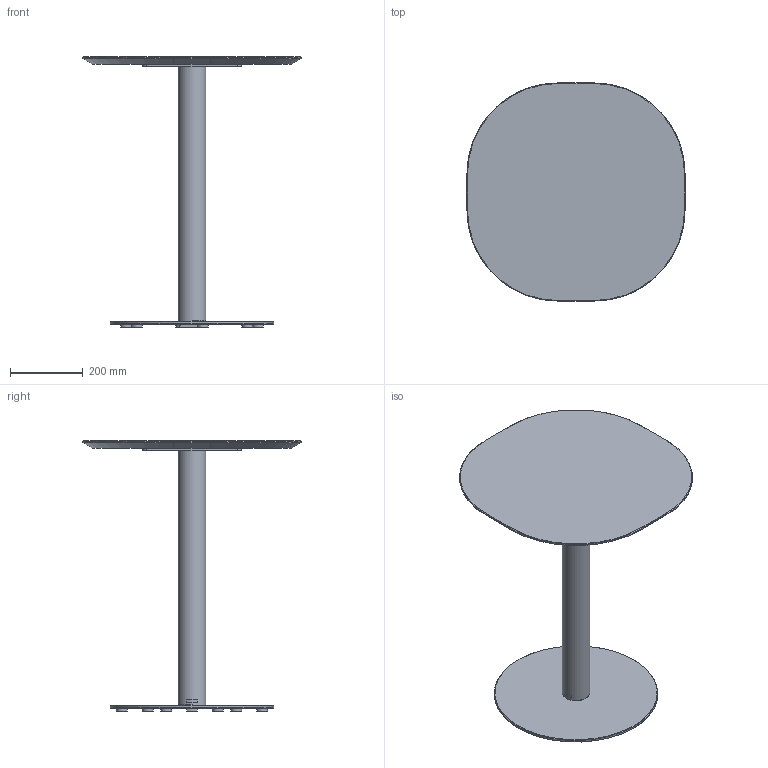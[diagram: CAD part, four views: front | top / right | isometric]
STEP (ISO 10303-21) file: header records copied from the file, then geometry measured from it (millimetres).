
FILE_DESCRIPTION( ('This file contains a STEP AP42 implementation' ,'as created by ZW3D STEP Interface translator.') ,'2;1' );
FILE_NAME( 'Henri - B_Rond - F2 - M5 - 600 x 600 x 750.stp' ,'24 912.153123', (''), ('ZWCAD Software Co.'), 'Version 1.0', 'ZW3D to STEP translator', '' );
FILE_SCHEMA(('AUTOMOTIVE_DESIGN { 1 0 10303 214 1 1 1 1 }'));
Length unit declared in the file: millimetre
Products named in the file (14): 0; PIED BISTROT PARAMETRIQUE_; COLONNE ACIER Ø76 V.02_; TUB-D076-02_; PLA-R76B-01_; SOCLE ACIER C Ø450 V.02_; SCL-D450-02_; PLA-R30A-01_; PLA-R30A-01; CROIX ACIER 370 V.02_; CRX-X370-02_; WUERTH 0276063020 Euro-screw 6.3x2 Verzinkt_; PLATEAU BISTROT PARAMETRIQUE_; insert_m6_13_
Assembly tree (24 placements, depth 3):
  0
  PIED BISTROT PARAMETRIQUE_
    COLONNE ACIER Ø76 V.02_
      TUB-D076-02_
      PLA-R76B-01_  x2
    SOCLE ACIER C Ø450 V.02_
      SCL-D450-02_
      PLA-R30A-01_
      PLA-R30A-01  x5
    CROIX ACIER 370 V.02_
      CRX-X370-02_
    WUERTH 0276063020 Euro-screw 6.3x2 Verzinkt_
    PLATEAU BISTROT PARAMETRIQUE_
      insert_m6_13_  x8
Bounding box: 600 x 600 x 744 mm (x, y, z)
Volume: 7973712.3 mm3; surface area: 1483147.8 mm2
Topology: 21 solids, 21 shells, 524 faces, 1273 edges, 802 vertices
Faces by surface type: plane 251, bspline 124, cylinder 99, cone 49, torus 1
Full cylindrical faces by diameter (mm): 4.88 x1, 6 x8, 6.3 x1, 8 x47, 12 x2, 14 x2, 30 x6, 72 x1, 76 x1, 450 x1
Entity records: 11777 total; most frequent: CARTESIAN_POINT 3376, ORIENTED_EDGE 1526, DIRECTION 1407, EDGE_CURVE 763, VERTEX_POINT 490, VECTOR 473, LINE 473, AXIS2_PLACEMENT_3D 467
